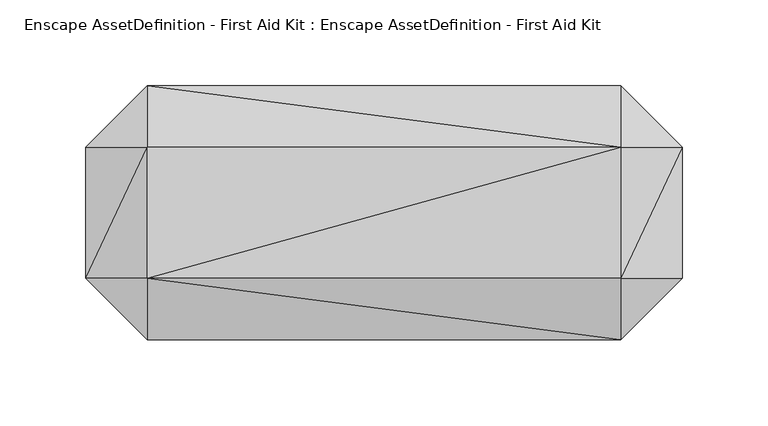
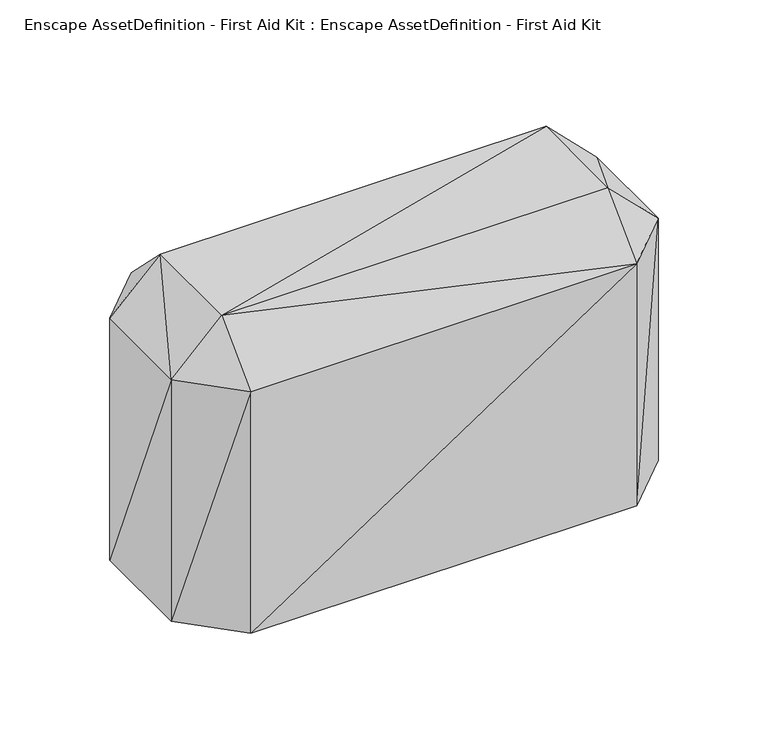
"""IFC4 building model written with IfcOpenShell, lengths in millimetres: geographic element geometry, Enscape AssetDefinition - First Aid Kit : Enscape AssetDefinition - First Aid Kit."""

import ifcopenshell
import ifcopenshell.guid

model = None  # the IFC model being written
_history = None  # IfcOwnerHistory: only IFC2X3 demands one
_inside = {}  # id of a spatial element -> (the spatial element, [elements in it])
_under = {}  # id of a project, library or spatial element -> (it, [spatial elements below it])
_declared = {}  # id of a project -> (the project, [libraries it declares])
_typed = {}  # id of a type object -> (the type object, [elements of that type])
_made_of = {}  # id of a material, layer set ... -> (it, [elements and type objects made of it])


def new_model(schema):
    """Start an empty IFC model of exactly this schema.

    Asked for "IFC4X3", IfcOpenShell would pick the latest addendum, in which some entities
    have other attributes; the version numbers below select the first issue.
    IFC2X3 requires an IfcOwnerHistory on every rooted entity: one is made here for all.
    """
    global model, _history
    if schema == "IFC4X3":
        model = ifcopenshell.file(schema_version=(4, 3, 0, 0))
    else:
        model = ifcopenshell.file(schema=schema)
    _inside.clear()
    _under.clear()
    _declared.clear()
    _typed.clear()
    _made_of.clear()
    _history = None
    if model.schema == "IFC2X3":
        org = make("IfcOrganization", Name="unknown")
        user = make(
            "IfcPersonAndOrganization",
            ThePerson=make("IfcPerson", FamilyName="unknown"),
            TheOrganization=org,
        )
        app = make(
            "IfcApplication",
            ApplicationDeveloper=org,
            Version="unknown",
            ApplicationFullName="unknown",
            ApplicationIdentifier="unknown",
        )
        _history = make(
            "IfcOwnerHistory",
            OwningUser=user,
            OwningApplication=app,
            ChangeAction="ADDED",
            CreationDate=0,
        )
    return model


def make(cls, **values):
    """One entity of the class cls with the attributes given. An attribute that is None is left unset."""
    return model.create_entity(
        cls, **{name: value for name, value in values.items() if value is not None}
    )


def rooted(cls, **values):
    """An entity with a GlobalId (a new one), such as an element, a storey or a relation."""
    return make(cls, GlobalId=ifcopenshell.guid.new(), OwnerHistory=_history, **values)


def si_unit(unit_type, name, prefix=None):
    """IfcSIUnit, for example si_unit("LENGTHUNIT", "METRE", prefix="MILLI")."""
    return make("IfcSIUnit", UnitType=unit_type, Prefix=prefix, Name=name)


def assignment(units):
    """IfcUnitAssignment: the units of a project."""
    return None if units is None else make("IfcUnitAssignment", Units=units)


def point(xyz):
    """IfcCartesianPoint."""
    return None if xyz is None else make("IfcCartesianPoint", Coordinates=xyz)


def direction(xyz):
    """IfcDirection."""
    return None if xyz is None else make("IfcDirection", DirectionRatios=xyz)


def frame(location, z_axis=None, x_axis=None):
    """IfcAxis2Placement3D, a coordinate frame: its origin and axes. An axis left out is left unset."""
    return make(
        "IfcAxis2Placement3D",
        Location=point(location),
        Axis=direction(z_axis),
        RefDirection=direction(x_axis),
    )


def origin():
    """The frame at (0, 0, 0) with its axes left unset."""
    return frame((0.0, 0.0, 0.0))


def place(relative_to, where):
    """IfcLocalPlacement: puts the frame where relative to a parent placement (None: the world)."""
    return make(
        "IfcLocalPlacement", PlacementRelTo=relative_to, RelativePlacement=where
    )


def context(
    kind, dimensions, precision=None, world=None, true_north=None, identifier=None
):
    """IfcGeometricRepresentationContext, for example the 3D "Model" context."""
    return make(
        "IfcGeometricRepresentationContext",
        ContextIdentifier=identifier,
        ContextType=kind,
        CoordinateSpaceDimension=dimensions,
        Precision=precision,
        WorldCoordinateSystem=world,
        TrueNorth=true_north,
    )


def project(units=None, contexts=None):
    """IfcProject with its units and contexts."""
    return rooted(
        "IfcProject",
        Name="project",
        RepresentationContexts=contexts,
        UnitsInContext=assignment(units),
    )


def spatial(cls, under=None, at=None, **own):
    """A site, building, storey or space (cls), placed at a placement, below another one or the project."""
    s = rooted(cls, ObjectPlacement=at, **own)
    if under is not None:
        _under.setdefault(under.id(), (under, []))[1].append(s)
    return s


def faces_of(points, faces, orient=None, outer=None):
    """IfcFace entities. A face is a list of loops; a loop is a list of indices into points, from 0.

    orient and outer hold one flag for each loop. By default every Orientation is true, the
    first loop of a face is its IfcFaceOuterBound and the others are IfcFaceBound.
    """
    made = []
    for i, loops in enumerate(faces):
        bounds = []
        for j, loop in enumerate(loops):
            is_outer = j == 0 if outer is None else outer[i][j]
            bounds.append(
                make(
                    "IfcFaceOuterBound" if is_outer else "IfcFaceBound",
                    Bound=make("IfcPolyLoop", Polygon=[points[k] for k in loop]),
                    Orientation=True if orient is None else orient[i][j],
                )
            )
        made.append(make("IfcFace", Bounds=bounds))
    return made


def faceted_brep(points, faces, orient=None, outer=None, voids=None):
    """IfcFacetedBrep: a solid bounded by flat faces; with voids (closed shells), ...WithVoids."""
    shared = [point(p) for p in points]
    hull = make("IfcClosedShell", CfsFaces=faces_of(shared, faces, orient, outer))
    if voids is None:
        return make("IfcFacetedBrep", Outer=hull)
    return make(
        "IfcFacetedBrepWithVoids",
        Outer=hull,
        Voids=[
            make(cls, CfsFaces=faces_of(shared, fs, o, b)) for cls, fs, o, b in voids
        ],
    )


def shape(context_of_items, identifier, shape_type, items):
    """IfcShapeRepresentation: the items that make up one representation, for example the "Body"."""
    return make(
        "IfcShapeRepresentation",
        ContextOfItems=context_of_items,
        RepresentationIdentifier=identifier,
        RepresentationType=shape_type,
        Items=items,
    )


def source(mapping_origin, context_of_items, identifier, shape_type, items):
    """IfcRepresentationMap: a shape defined once, which mapped items show again and again."""
    return make(
        "IfcRepresentationMap",
        MappingOrigin=mapping_origin,
        MappedRepresentation=shape(context_of_items, identifier, shape_type, items),
    )


def transform(
    local_origin,
    x_axis=None,
    y_axis=None,
    z_axis=None,
    scale=None,
    scale2=None,
    scale3=None,
    uniform=True,
):
    """IfcCartesianTransformationOperator3D, or its non-uniform kind. x_axis, y_axis, z_axis: its Axis1, 2, 3."""
    if uniform:
        return make(
            "IfcCartesianTransformationOperator3D",
            Axis1=direction(x_axis),
            Axis2=direction(y_axis),
            LocalOrigin=point(local_origin),
            Scale=scale,
            Axis3=direction(z_axis),
        )
    return make(
        "IfcCartesianTransformationOperator3DnonUniform",
        Axis1=direction(x_axis),
        Axis2=direction(y_axis),
        LocalOrigin=point(local_origin),
        Scale=scale,
        Axis3=direction(z_axis),
        Scale2=scale2,
        Scale3=scale3,
    )


def mapped(mapping_source, mapping_target):
    """IfcMappedItem: shows the shape of a source again, moved by a transform."""
    return make(
        "IfcMappedItem", MappingSource=mapping_source, MappingTarget=mapping_target
    )


def made_of(thing, what):
    """Note that an element or type object is made of a material, layer set ...; save() writes the relation."""
    if what is not None:
        _made_of.setdefault(what.id(), (what, []))[1].append(thing)
    return thing


def element(
    cls,
    number,
    at=None,
    inside=None,
    cuts=None,
    type_object=None,
    material=None,
    context=None,
    identifier="Body",
    shape_type=None,
    held_by="IfcProductDefinitionShape",
    body=None,
    shapes=None,
    **own,
):
    """One element of the class cls, such as IfcWall. Its Tag is "e" and its number.

    at: its placement. inside: the storey or other place that contains it. cuts: it is an
    opening in that element (IfcRelVoidsElement). A single representation is given by context,
    identifier, shape_type and body (its items); several are given by shapes. held_by: the class
    of the entity that holds the representations. save() writes the other relations.
    """
    e = rooted(cls, Tag="e%d" % number, ObjectPlacement=at, **own)
    if body is not None:
        shapes = [shape(context, identifier, shape_type, body)]
    if shapes is not None:
        e.Representation = make(held_by, Representations=shapes)
    if inside is not None:
        _inside.setdefault(inside.id(), (inside, []))[1].append(e)
    if cuts is not None:
        rooted(
            "IfcRelVoidsElement", RelatingBuildingElement=cuts, RelatedOpeningElement=e
        )
    if type_object is not None:
        _typed.setdefault(type_object.id(), (type_object, []))[1].append(e)
    return made_of(e, material)


def aggregate(whole, parts):
    """IfcRelAggregates: a whole, such as a stair, and the parts it consists of."""
    return rooted("IfcRelAggregates", RelatingObject=whole, RelatedObjects=parts)


def save(model, path):
    """Write the relations noted so far, then the file.

    IfcRelAggregates (storeys below a building ...), IfcRelContainedInSpatialStructure (elements
    in a storey), IfcRelDefinesByType, IfcRelAssociatesMaterial and IfcRelDeclares: one each for
    every whole, place, type object, material and project.
    """
    for whole, parts in _under.values():
        aggregate(whole, parts)
    for where, things in _inside.values():
        rooted(
            "IfcRelContainedInSpatialStructure",
            RelatedElements=things,
            RelatingStructure=where,
        )
    for kind, things in _typed.values():
        rooted("IfcRelDefinesByType", RelatedObjects=things, RelatingType=kind)
    for what, things in _made_of.values():
        rooted("IfcRelAssociatesMaterial", RelatedObjects=things, RelatingMaterial=what)
    for by, libraries in _declared.values():
        rooted("IfcRelDeclares", RelatingContext=by, RelatedDefinitions=libraries)
    model.write(path)


def enscape_assetdefinition_first_aid_kit_enscape_9b5aa35b(model_context):
    return source(origin(), model_context, "Body", "Brep", [
        faceted_brep([(-124.4343072, 40.3253771, 218.3952332), (-124.4343072, -35.881158, 218.3952332), (151.3892561, 40.3253771, 218.3952332), (-160.3203714, -35.881158, 182.509169), (-124.4343072, -71.7672259, 182.509169), (151.3892561, -35.881158, 218.3952332), (151.3892561, -71.7672259, 182.509169), (-124.4343072, 76.2114376, 182.509169), (-160.3203714, 40.3253771, 182.509169), (-160.3203714, 40.3253771, 0.0), (-160.3203714, -35.881158, 0.0), (-124.4343072, -71.7672259, 0.0), (-124.4343072, 76.2114376, 0.0), (151.3892561, 76.2114376, 0.0), (151.3892561, 76.2114376, 182.509169), (187.2753203, 40.3253771, 0.0), (187.2753203, -35.881158, 0.0), (151.3892561, -71.7672259, 0.0), (187.2753203, -35.881158, 182.509169), (187.2753203, 40.3253771, 182.509169)], [[[0, 1, 2]], [[3, 4, 1]], [[5, 1, 6]], [[1, 0, 3]], [[2, 1, 5]], [[6, 1, 4]], [[7, 8, 0]], [[0, 2, 7]], [[3, 0, 8]], [[8, 9, 3]], [[3, 9, 10]], [[10, 4, 3]], [[4, 11, 6]], [[11, 4, 10]], [[11, 10, 9]], [[8, 12, 9]], [[13, 9, 12]], [[11, 9, 13]], [[7, 12, 8]], [[14, 13, 7]], [[7, 13, 12]], [[7, 2, 14]], [[14, 15, 13]], [[16, 13, 15]], [[11, 13, 16]], [[6, 11, 17]], [[11, 16, 17]], [[18, 16, 19]], [[19, 16, 15]], [[18, 17, 16]], [[19, 15, 14]], [[19, 14, 2]], [[2, 5, 19]], [[19, 5, 18]], [[6, 18, 5]], [[6, 17, 18]]]),
    ])


if __name__ == "__main__":
    model = new_model("IFC4")
    model_context = context("Model", 3, world=origin())
    ifc_project = project(units=[si_unit("LENGTHUNIT", "METRE", prefix="MILLI")], contexts=[model_context])
    site = spatial("IfcSite", under=ifc_project)
    building = spatial("IfcBuilding", under=site)
    placement = place(None, origin())
    enscape_assetdefinition_first_aid_kit_enscape_shape = enscape_assetdefinition_first_aid_kit_enscape_9b5aa35b(model_context)
    element("IfcGeographicElement", 1, ObjectType="Enscape AssetDefinition - First Aid Kit : Enscape AssetDefinition - First Aid Kit", at=placement, inside=building, context=model_context, shape_type="MappedRepresentation", body=[
        mapped(enscape_assetdefinition_first_aid_kit_enscape_shape, transform((0.0, 0.0, 0.0), x_axis=(1.0, 0.0, 0.0), y_axis=(0.0, 1.0, 0.0), z_axis=(0.0, 0.0, 1.0))),
    ])
    save(model, "model.ifc")
